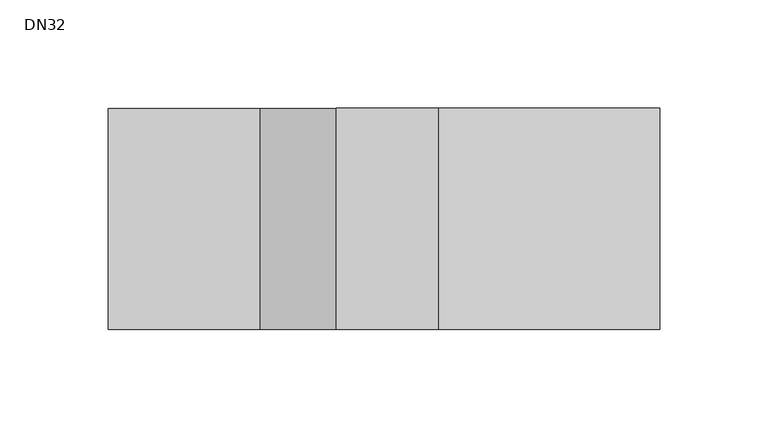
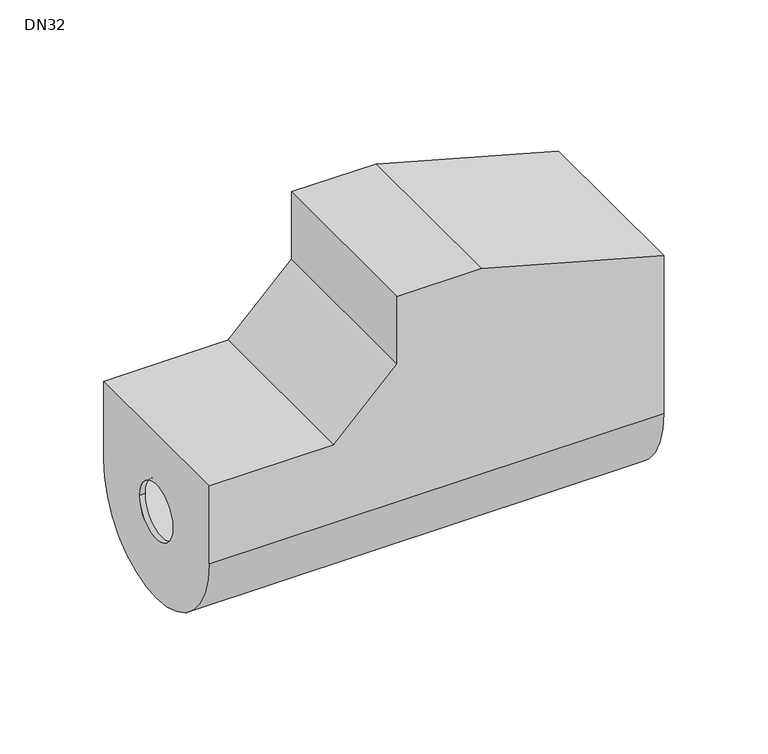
"""IFC4 building model written with IfcOpenShell, lengths in millimetres: valve geometry, 400_5-_KOMF_Isolatieschaal_DN20-50 : DN32."""

import ifcopenshell
import ifcopenshell.guid

model = None  # the IFC model being written
_history = None  # IfcOwnerHistory: only IFC2X3 demands one
_inside = {}  # id of a spatial element -> (the spatial element, [elements in it])
_under = {}  # id of a project, library or spatial element -> (it, [spatial elements below it])
_declared = {}  # id of a project -> (the project, [libraries it declares])
_typed = {}  # id of a type object -> (the type object, [elements of that type])
_made_of = {}  # id of a material, layer set ... -> (it, [elements and type objects made of it])


def new_model(schema):
    """Start an empty IFC model of exactly this schema.

    Asked for "IFC4X3", IfcOpenShell would pick the latest addendum, in which some entities
    have other attributes; the version numbers below select the first issue.
    IFC2X3 requires an IfcOwnerHistory on every rooted entity: one is made here for all.
    """
    global model, _history
    if schema == "IFC4X3":
        model = ifcopenshell.file(schema_version=(4, 3, 0, 0))
    else:
        model = ifcopenshell.file(schema=schema)
    _inside.clear()
    _under.clear()
    _declared.clear()
    _typed.clear()
    _made_of.clear()
    _history = None
    if model.schema == "IFC2X3":
        org = make("IfcOrganization", Name="unknown")
        user = make(
            "IfcPersonAndOrganization",
            ThePerson=make("IfcPerson", FamilyName="unknown"),
            TheOrganization=org,
        )
        app = make(
            "IfcApplication",
            ApplicationDeveloper=org,
            Version="unknown",
            ApplicationFullName="unknown",
            ApplicationIdentifier="unknown",
        )
        _history = make(
            "IfcOwnerHistory",
            OwningUser=user,
            OwningApplication=app,
            ChangeAction="ADDED",
            CreationDate=0,
        )
    return model


def make(cls, **values):
    """One entity of the class cls with the attributes given. An attribute that is None is left unset."""
    return model.create_entity(
        cls, **{name: value for name, value in values.items() if value is not None}
    )


def rooted(cls, **values):
    """An entity with a GlobalId (a new one), such as an element, a storey or a relation."""
    return make(cls, GlobalId=ifcopenshell.guid.new(), OwnerHistory=_history, **values)


def si_unit(unit_type, name, prefix=None):
    """IfcSIUnit, for example si_unit("LENGTHUNIT", "METRE", prefix="MILLI")."""
    return make("IfcSIUnit", UnitType=unit_type, Prefix=prefix, Name=name)


def assignment(units):
    """IfcUnitAssignment: the units of a project."""
    return None if units is None else make("IfcUnitAssignment", Units=units)


def point(xyz):
    """IfcCartesianPoint."""
    return None if xyz is None else make("IfcCartesianPoint", Coordinates=xyz)


def direction(xyz):
    """IfcDirection."""
    return None if xyz is None else make("IfcDirection", DirectionRatios=xyz)


def frame(location, z_axis=None, x_axis=None):
    """IfcAxis2Placement3D, a coordinate frame: its origin and axes. An axis left out is left unset."""
    return make(
        "IfcAxis2Placement3D",
        Location=point(location),
        Axis=direction(z_axis),
        RefDirection=direction(x_axis),
    )


def origin():
    """The frame at (0, 0, 0) with its axes left unset."""
    return frame((0.0, 0.0, 0.0))


def place(relative_to, where):
    """IfcLocalPlacement: puts the frame where relative to a parent placement (None: the world)."""
    return make(
        "IfcLocalPlacement", PlacementRelTo=relative_to, RelativePlacement=where
    )


def context(
    kind, dimensions, precision=None, world=None, true_north=None, identifier=None
):
    """IfcGeometricRepresentationContext, for example the 3D "Model" context."""
    return make(
        "IfcGeometricRepresentationContext",
        ContextIdentifier=identifier,
        ContextType=kind,
        CoordinateSpaceDimension=dimensions,
        Precision=precision,
        WorldCoordinateSystem=world,
        TrueNorth=true_north,
    )


def project(units=None, contexts=None):
    """IfcProject with its units and contexts."""
    return rooted(
        "IfcProject",
        Name="project",
        RepresentationContexts=contexts,
        UnitsInContext=assignment(units),
    )


def spatial(cls, under=None, at=None, **own):
    """A site, building, storey or space (cls), placed at a placement, below another one or the project."""
    s = rooted(cls, ObjectPlacement=at, **own)
    if under is not None:
        _under.setdefault(under.id(), (under, []))[1].append(s)
    return s


def polyline(points):
    """IfcPolyline through the points."""
    return make("IfcPolyline", Points=[point(p) for p in points])


def circle_curve(where, radius):
    """IfcCircle in the frame where."""
    return make("IfcCircle", Position=where, Radius=radius)


def shape(context_of_items, identifier, shape_type, items):
    """IfcShapeRepresentation: the items that make up one representation, for example the "Body"."""
    return make(
        "IfcShapeRepresentation",
        ContextOfItems=context_of_items,
        RepresentationIdentifier=identifier,
        RepresentationType=shape_type,
        Items=items,
    )


def source(mapping_origin, context_of_items, identifier, shape_type, items):
    """IfcRepresentationMap: a shape defined once, which mapped items show again and again."""
    return make(
        "IfcRepresentationMap",
        MappingOrigin=mapping_origin,
        MappedRepresentation=shape(context_of_items, identifier, shape_type, items),
    )


def transform(
    local_origin,
    x_axis=None,
    y_axis=None,
    z_axis=None,
    scale=None,
    scale2=None,
    scale3=None,
    uniform=True,
):
    """IfcCartesianTransformationOperator3D, or its non-uniform kind. x_axis, y_axis, z_axis: its Axis1, 2, 3."""
    if uniform:
        return make(
            "IfcCartesianTransformationOperator3D",
            Axis1=direction(x_axis),
            Axis2=direction(y_axis),
            LocalOrigin=point(local_origin),
            Scale=scale,
            Axis3=direction(z_axis),
        )
    return make(
        "IfcCartesianTransformationOperator3DnonUniform",
        Axis1=direction(x_axis),
        Axis2=direction(y_axis),
        LocalOrigin=point(local_origin),
        Scale=scale,
        Axis3=direction(z_axis),
        Scale2=scale2,
        Scale3=scale3,
    )


def mapped(mapping_source, mapping_target):
    """IfcMappedItem: shows the shape of a source again, moved by a transform."""
    return make(
        "IfcMappedItem", MappingSource=mapping_source, MappingTarget=mapping_target
    )


def made_of(thing, what):
    """Note that an element or type object is made of a material, layer set ...; save() writes the relation."""
    if what is not None:
        _made_of.setdefault(what.id(), (what, []))[1].append(thing)
    return thing


def element(
    cls,
    number,
    at=None,
    inside=None,
    cuts=None,
    type_object=None,
    material=None,
    context=None,
    identifier="Body",
    shape_type=None,
    held_by="IfcProductDefinitionShape",
    body=None,
    shapes=None,
    **own,
):
    """One element of the class cls, such as IfcWall. Its Tag is "e" and its number.

    at: its placement. inside: the storey or other place that contains it. cuts: it is an
    opening in that element (IfcRelVoidsElement). A single representation is given by context,
    identifier, shape_type and body (its items); several are given by shapes. held_by: the class
    of the entity that holds the representations. save() writes the other relations.
    """
    e = rooted(cls, Tag="e%d" % number, ObjectPlacement=at, **own)
    if body is not None:
        shapes = [shape(context, identifier, shape_type, body)]
    if shapes is not None:
        e.Representation = make(held_by, Representations=shapes)
    if inside is not None:
        _inside.setdefault(inside.id(), (inside, []))[1].append(e)
    if cuts is not None:
        rooted(
            "IfcRelVoidsElement", RelatingBuildingElement=cuts, RelatedOpeningElement=e
        )
    if type_object is not None:
        _typed.setdefault(type_object.id(), (type_object, []))[1].append(e)
    return made_of(e, material)


def aggregate(whole, parts):
    """IfcRelAggregates: a whole, such as a stair, and the parts it consists of."""
    return rooted("IfcRelAggregates", RelatingObject=whole, RelatedObjects=parts)


def save(model, path):
    """Write the relations noted so far, then the file.

    IfcRelAggregates (storeys below a building ...), IfcRelContainedInSpatialStructure (elements
    in a storey), IfcRelDefinesByType, IfcRelAssociatesMaterial and IfcRelDeclares: one each for
    every whole, place, type object, material and project.
    """
    for whole, parts in _under.values():
        aggregate(whole, parts)
    for where, things in _inside.values():
        rooted(
            "IfcRelContainedInSpatialStructure",
            RelatedElements=things,
            RelatingStructure=where,
        )
    for kind, things in _typed.values():
        rooted("IfcRelDefinesByType", RelatedObjects=things, RelatingType=kind)
    for what, things in _made_of.values():
        rooted("IfcRelAssociatesMaterial", RelatedObjects=things, RelatingMaterial=what)
    for by, libraries in _declared.values():
        rooted("IfcRelDeclares", RelatingContext=by, RelatedDefinitions=libraries)
    model.write(path)


def plane_surface(at):
    """IfcPlane: the flat surface through the origin of the frame at, square to its z axis."""
    return make("IfcPlane", Position=at)


def cylinder_surface(at, radius):
    """IfcCylindricalSurface: all points at the distance radius from the z axis of the frame at."""
    return make("IfcCylindricalSurface", Position=at, Radius=radius)


def revolved_surface(curve, axis_point, axis_direction):
    """IfcSurfaceOfRevolution: the curve turned about the line through axis_point along axis_direction."""
    return make(
        "IfcSurfaceOfRevolution",
        SweptCurve=make("IfcArbitraryOpenProfileDef", ProfileType="CURVE", Curve=curve),
        AxisPosition=make("IfcAxis1Placement", Location=point(axis_point), Axis=direction(axis_direction)),
    )


def advanced_brep(points, edges, surfaces, faces):
    """IfcAdvancedBrep: a solid bounded by faces that lie on surfaces and meet in shared edges.

    An edge is (start, end): straight between two places in points (the first is 0);
    or (start, end, curve); or (start, end, curve, False) where it runs against its curve.
    A face is (place in surfaces, loops), or (place, loops, False) where it looks against
    its surface's normal. A loop lists edges by number (the first is 1), with a minus sign
    where the edge is run from its end to its start. The first loop is the outer one.
    """
    corners = [point(p) for p in points]
    vertices = [make("IfcVertexPoint", VertexGeometry=c) for c in corners]
    made = []
    for start, end, *more in edges:
        made.append(
            make(
                "IfcEdgeCurve",
                EdgeStart=vertices[start],
                EdgeEnd=vertices[end],
                EdgeGeometry=more[0] if more else make("IfcPolyline", Points=[corners[start], corners[end]]),
                SameSense=more[1] if len(more) > 1 else True,
            )
        )
    hull = []
    for where, loops, *sense in faces:
        bounds = []
        for j, loop in enumerate(loops):
            ring = [make("IfcOrientedEdge", EdgeElement=made[abs(k) - 1], Orientation=k > 0) for k in loop]
            bounds.append(
                make(
                    "IfcFaceOuterBound" if j == 0 else "IfcFaceBound",
                    Bound=make("IfcEdgeLoop", EdgeList=ring),
                    Orientation=True,
                )
            )
        hull.append(make("IfcAdvancedFace", Bounds=bounds, FaceSurface=surfaces[where], SameSense=sense[0] if sense else True))
    return make("IfcAdvancedBrep", Outer=make("IfcClosedShell", CfsFaces=hull))


def dn32_84c84d50(model_context):
    return source(origin(), model_context, "Body", "AdvancedBrep", [
        advanced_brep(
        [(0.0, 51.0, 121.0), (47.0, 51.0, 121.0), (149.0, 51.0, 92.9711306), (149.0, 51.0, 0.0), (-105.0, 51.0, 0.0), (-105.0, 51.0, 46.0), (-35.3553391, 51.0, 46.0), (0.0, 51.0, 81.3553391), (149.0, -51.0, 92.9711306), (47.0, -51.0, 121.0), (0.0, -51.0, 121.0), (0.0, -51.0, 81.3553391), (-35.3553391, -51.0, 46.0), (-105.0, -51.0, 46.0), (-105.0, -51.0, 0.0), (149.0, -51.0, 0.0), (-105.0, 0.0, -51.0), (-105.0, -15.9999998, -4e-07), (-105.0, 16.0000002, -4e-07), (149.0, 0.0, -51.0), (149.0, 16.0000002, -4e-07), (149.0, -15.9999998, -4e-07), (-102.0, -15.9999998, -4e-07), (-102.0, 16.0000002, -4e-07), (146.0, 16.0000002, -4e-07), (146.0, -15.9999998, -4e-07), (146.0, 48.0, 0.0), (146.0, -48.0, 0.0), (146.0, -48.0, 90.6843036), (146.0, 48.0, 90.6843036), (-102.0, -48.0, 43.0), (-102.0, -48.0, 0.0), (-102.0, 48.0, 0.0), (-102.0, 48.0, 43.0), (-34.1126984, -48.0, 43.0), (3.0, -48.0, 80.1126984), (3.0, -48.0, 118.0), (46.5953113, -48.0, 118.0), (46.5953113, 48.0, 118.0), (3.0, 48.0, 118.0), (3.0, 48.0, 80.1126984), (-34.1126984, 48.0, 43.0)],
        [
            (0, 1),
            (1, 2),
            (2, 3),
            (3, 4),
            (4, 5),
            (5, 6),
            (6, 7),
            (7, 0),
            (8, 9),
            (9, 10),
            (10, 11),
            (11, 12),
            (12, 13),
            (13, 14),
            (14, 15),
            (15, 8),
            (13, 5),
            (4, 16, circle_curve(frame((-105.0, 0.0, 0.0), z_axis=(-1.0, 0.0, 0.0), x_axis=(0.0, 1.0, 0.0)), 51.0)),
            (16, 14, circle_curve(frame((-105.0, 0.0, 0.0), z_axis=(-1.0, 0.0, 0.0), x_axis=(0.0, 1.0, 0.0)), 51.0)),
            (17, 18, circle_curve(frame((-105.0, 2e-07, -4e-07), z_axis=(1.0, 0.0, 0.0), x_axis=(0.0, 1.0, 0.0)), 16.0)),
            (18, 17, circle_curve(frame((-105.0, 2e-07, -4e-07), z_axis=(1.0, 0.0, 0.0), x_axis=(0.0, 1.0, 0.0)), 16.0)),
            (12, 6),
            (10, 0),
            (7, 11),
            (9, 1),
            (8, 2),
            (15, 19, circle_curve(frame((149.0, 0.0, 0.0), z_axis=(1.0, 0.0, 0.0), x_axis=(0.0, 1.0, 0.0)), 51.0)),
            (19, 3, circle_curve(frame((149.0, 0.0, 0.0), z_axis=(1.0, 0.0, 0.0), x_axis=(0.0, 1.0, 0.0)), 51.0)),
            (20, 21, circle_curve(frame((149.0, 2e-07, -4e-07), z_axis=(-1.0, 0.0, 0.0), x_axis=(0.0, 1.0, 0.0)), 16.0)),
            (21, 20, circle_curve(frame((149.0, 2e-07, -4e-07), z_axis=(-1.0, 0.0, 0.0), x_axis=(0.0, 1.0, 0.0)), 16.0)),
            (17, 22),
            (22, 23, circle_curve(frame((-102.0, 2e-07, -4e-07), z_axis=(1.0, 0.0, 0.0), x_axis=(0.0, 1.0, 0.0)), 16.0)),
            (23, 18),
            (20, 24),
            (24, 25, circle_curve(frame((146.0, 2e-07, -4e-07), z_axis=(-1.0, 0.0, 0.0), x_axis=(0.0, 1.0, 0.0)), 16.0)),
            (25, 21),
            (23, 22, circle_curve(frame((-102.0, 2e-07, -4e-07), z_axis=(1.0, 0.0, 0.0), x_axis=(0.0, 1.0, 0.0)), 16.0)),
            (25, 24, circle_curve(frame((146.0, 2e-07, -4e-07), z_axis=(-1.0, 0.0, 0.0), x_axis=(0.0, 1.0, 0.0)), 16.0)),
            (26, 27, circle_curve(frame((146.0, 0.0, 0.0), z_axis=(-1.0, 0.0, 0.0), x_axis=(0.0, 1.0, 0.0)), 48.0)),
            (27, 28),
            (28, 29),
            (29, 26),
            (30, 31),
            (31, 32, circle_curve(frame((-102.0, 0.0, 0.0), z_axis=(1.0, 0.0, 0.0), x_axis=(0.0, 1.0, 0.0)), 48.0)),
            (32, 33),
            (33, 30),
            (30, 34),
            (34, 35),
            (35, 36),
            (36, 37),
            (37, 28),
            (27, 31),
            (26, 32),
            (29, 38),
            (38, 39),
            (39, 40),
            (40, 41),
            (41, 33),
            (41, 34),
            (39, 36),
            (35, 40),
            (37, 38),
        ],
        [
            plane_surface(frame((-105.0, 51.0, -51.0), z_axis=(0.0, 1.0, 0.0), x_axis=(0.0, 0.0, 1.0))),
            plane_surface(frame((-105.0, -51.0, -51.0), z_axis=(0.0, -1.0, 0.0), x_axis=(0.0, 0.0, -1.0))),
            plane_surface(frame((-105.0, 51.0, -51.0), z_axis=(-1.0, 0.0, 0.0), x_axis=(0.0, -1.0, 0.0))),
            plane_surface(frame((-105.0, 51.0, 46.0), z_axis=(0.0, 0.0, 1.0), x_axis=(0.0, -1.0, 0.0))),
            plane_surface(frame((0.0, 51.0, 46.0), z_axis=(-1.0, 0.0, 0.0), x_axis=(0.0, -1.0, 0.0))),
            plane_surface(frame((0.0, 51.0, 121.0), z_axis=(0.0, 0.0, 1.0), x_axis=(0.0, -1.0, 0.0))),
            plane_surface(frame((47.0, 51.0, 121.0), z_axis=(0.2649707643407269, 0.0, 0.9642564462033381), x_axis=(0.0, -1.0, 0.0))),
            plane_surface(frame((149.0, 51.0, 92.9711306), z_axis=(1.0, 0.0, 0.0), x_axis=(0.0, -1.0, 0.0))),
            revolved_surface(polyline([(-102.0, 16.0000002, -4e-07), (-105.0, 16.0000002, -4e-07)]), (-105.0, 2e-07, -4e-07), (1.0, 0.0, 0.0)),
            revolved_surface(polyline([(149.0, 16.0000002, -4e-07), (146.0, 16.0000002, -4e-07)]), (-105.0, 2e-07, -4e-07), (1.0, 0.0, 0.0)),
            plane_surface(frame((0.0, -51.0, 81.3553391), z_axis=(-0.7071067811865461, 0.0, 0.707106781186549), x_axis=(0.0, 1.0, 0.0))),
            cylinder_surface(frame((-105.0, 0.0, 0.0), z_axis=(-1.0, 0.0, 0.0), x_axis=(0.0, 1.0, 0.0)), 51.0),
            plane_surface(frame((146.0, -48.0, 43.0), z_axis=(-1.0, 0.0, 0.0), x_axis=(0.0, 0.0, -1.0))),
            plane_surface(frame((-102.0, -48.0, 43.0), z_axis=(1.0, 0.0, 0.0), x_axis=(0.0, 0.0, 1.0))),
            plane_surface(frame((146.0, -48.0, 43.0), z_axis=(0.0, 1.0, 0.0), x_axis=(-1.0, 0.0, 0.0))),
            revolved_surface(polyline([(146.0, 48.0, 0.0), (-102.0, 48.0, 0.0)]), (-102.0, 0.0, 0.0), (1.0, 0.0, 0.0)),
            plane_surface(frame((146.0, 48.0, 0.0), z_axis=(0.0, -1.0, 0.0), x_axis=(-1.0, 0.0, 0.0))),
            plane_surface(frame((146.0, 48.0, 43.0), z_axis=(0.0, 0.0, -1.0), x_axis=(-1.0, 0.0, 0.0))),
            plane_surface(frame((3.0, -48.0, 118.0), z_axis=(1.0, 0.0, 0.0), x_axis=(0.0, 1.0, 0.0))),
            plane_surface(frame((146.0, -48.0, 90.6843036), z_axis=(-0.26497076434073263, 0.0, -0.9642564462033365), x_axis=(0.0, 1.0, 0.0))),
            plane_surface(frame((46.5953113, -48.0, 118.0), z_axis=(0.0, 0.0, -1.0), x_axis=(0.0, 1.0, 0.0))),
            plane_surface(frame((3.0, -48.0, 80.1126984), z_axis=(0.7071067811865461, 0.0, -0.7071067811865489), x_axis=(0.0, 1.0, 0.0))),
        ],
        [
            (0, [[1, 2, 3, 4, 5, 6, 7, 8]]),
            (1, [[9, 10, 11, 12, 13, 14, 15, 16]]),
            (2, [[17, -5, 18, 19, -14], [20, 21]]),
            (3, [[-17, -13, 22, -6]]),
            (4, [[23, -8, 24, -11]]),
            (5, [[-1, -23, -10, 25]]),
            (6, [[-2, -25, -9, 26]]),
            (7, [[-26, -16, 27, 28, -3], [29, 30]]),
            (8, [[-20, 31, 32, 33]]),
            (9, [[-29, 34, 35, 36]]),
            (8, [[-21, -33, 37, -31]]),
            (9, [[-30, -36, 38, -34]]),
            (10, [[-12, -24, -7, -22]]),
            (11, [[-4, -28, -27, -15, -19, -18]]),
            (12, [[39, 40, 41, 42], [-35, -38]]),
            (13, [[43, 44, 45, 46], [-32, -37]]),
            (14, [[-43, 47, 48, 49, 50, 51, -40, 52]]),
            (15, [[-39, 53, -44, -52]]),
            (16, [[-45, -53, -42, 54, 55, 56, 57, 58]]),
            (17, [[-46, -58, 59, -47]]),
            (18, [[60, -49, 61, -56]]),
            (19, [[-51, 62, -54, -41]]),
            (20, [[-50, -60, -55, -62]]),
            (21, [[-48, -59, -57, -61]]),
        ],
    ),
    ])


if __name__ == "__main__":
    model = new_model("IFC4")
    model_context = context("Model", 3, world=origin())
    ifc_project = project(units=[si_unit("LENGTHUNIT", "METRE", prefix="MILLI")], contexts=[model_context])
    site = spatial("IfcSite", under=ifc_project)
    building = spatial("IfcBuilding", under=site)
    placement = place(None, origin())
    dn32_shape = dn32_84c84d50(model_context)
    element("IfcValve", 1, ObjectType="400_5-_KOMF_Isolatieschaal_DN20-50 : DN32", at=placement, inside=building, context=model_context, shape_type="MappedRepresentation", body=[
        mapped(dn32_shape, transform((0.0, 0.0, 0.0), x_axis=(1.0, 0.0, 0.0), y_axis=(0.0, 1.0, 0.0), z_axis=(0.0, 0.0, 1.0))),
    ])
    save(model, "model.ifc")
